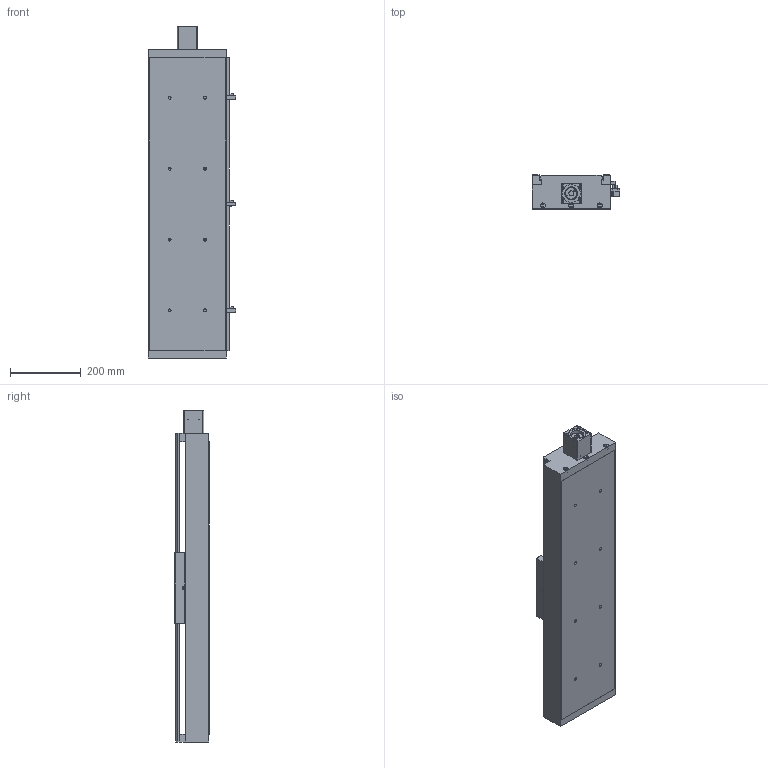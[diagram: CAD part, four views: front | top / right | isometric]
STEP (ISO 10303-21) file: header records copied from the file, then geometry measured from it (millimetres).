
FILE_DESCRIPTION((''),'2;1');
FILE_NAME('E:\libraries\UIA actuator library 2016\standard actuator\UIA220R20NDC\UIA220R20NDC ball screw 20\UIA220R20NDC-_ _ _-R20_ _ stp file, 01May16\UIA220R20NDC-600-R20_ _.stp','2016-04-29T15:22:29',('h029'),(''),'Autodesk Inventor 11','Autodesk Inventor 11','');
FILE_SCHEMA(('AUTOMOTIVE_DESIGN { 1 0 10303 214 1 1 1 1 }'));
Length unit declared in the file: millimetre
Products named in the file (10): UIA220R20NDC-600-R20_ _; UIA220R20NDC-body; 41-100 0010 CARRIAGE; sensor rail; Sensor Switch; motor mount M60; SOH-32C; SOH-32C-3; SOH-32C-1; SOH-32C-2
Assembly tree (9 placements, depth 3):
  UIA220R20NDC-600-R20_ _
    UIA220R20NDC-body
    41-100 0010 CARRIAGE
    sensor rail
    Sensor Switch
    motor mount M60
    SOH-32C
      SOH-32C-3
      SOH-32C-1
      SOH-32C-2
Bounding box: 246.5 x 96 x 936 mm (x, y, z)
Volume: 5684490.2 mm3; surface area: 1322532.1 mm2
Topology: 8 solids, 8 shells, 512 faces, 1366 edges, 898 vertices
Faces by surface type: plane 341, bspline 121, cylinder 48, cone 2
Full cylindrical faces by diameter (mm): 3.242 x2, 4.5 x2, 7 x4, 7.5 x2, 12 x2, 13.8 x3, 14 x4, 15 x1, 32 x3, 37 x1, 46.9 x1, 47.1 x1
Entity records: 16726 total; most frequent: CARTESIAN_POINT 4732, ORIENTED_EDGE 2330, DIRECTION 2281, EDGE_CURVE 1165, VECTOR 849, LINE 849, VERTEX_POINT 824, EDGE_LOOP 743
